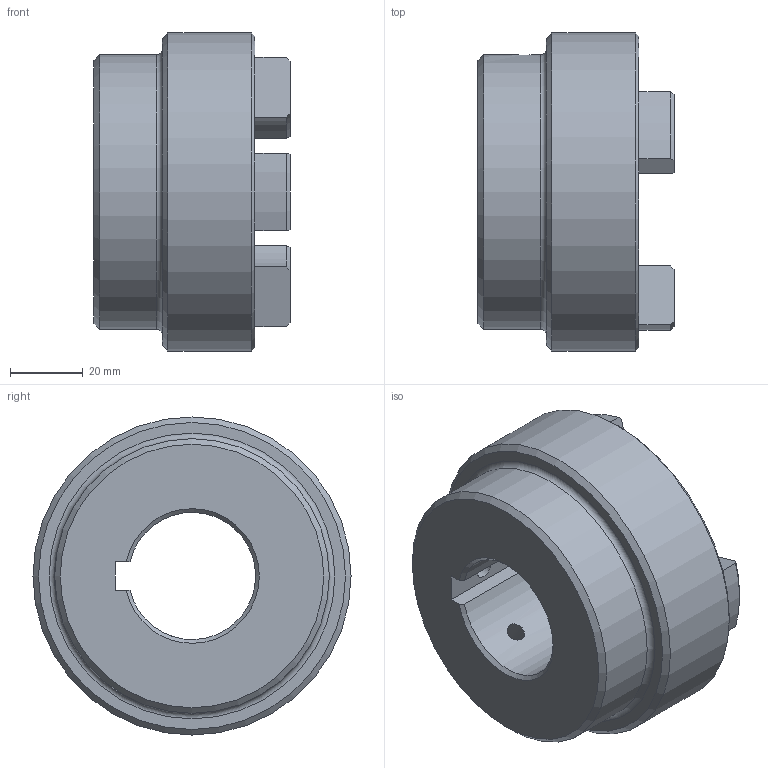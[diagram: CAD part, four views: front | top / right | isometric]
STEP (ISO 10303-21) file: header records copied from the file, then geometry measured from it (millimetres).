
FILE_DESCRIPTION (( 'STEP AP203' ), '1' );
FILE_NAME ('RC3.step', '2024-07-24T12:50:15', ( 'Adlan' ), ( '' ), 'SwSTEP 2.0', 'SolidWorks 2013', '' );
FILE_SCHEMA (( 'CONFIG_CONTROL_DESIGN' ));
Length unit declared in the file: inch
Products named in the file (1): RC3
Bounding box: 53.85 x 87.38 x 87.38 mm (x, y, z)
Volume: 163156.3 mm3; surface area: 30478.4 mm2
Topology: 1 solids, 1 shells, 67 faces, 168 edges, 105 vertices
Faces by surface type: cylinder 26, plane 16, torus 13, cone 12
Full cylindrical faces by diameter (mm): 5.105 x2, 75.438 x1, 87.376 x1
Entity records: 2243 total; most frequent: CARTESIAN_POINT 568, DIRECTION 354, ORIENTED_EDGE 310, EDGE_CURVE 155, AXIS2_PLACEMENT_3D 142, VERTEX_POINT 102, EDGE_LOOP 85, CIRCLE 74
